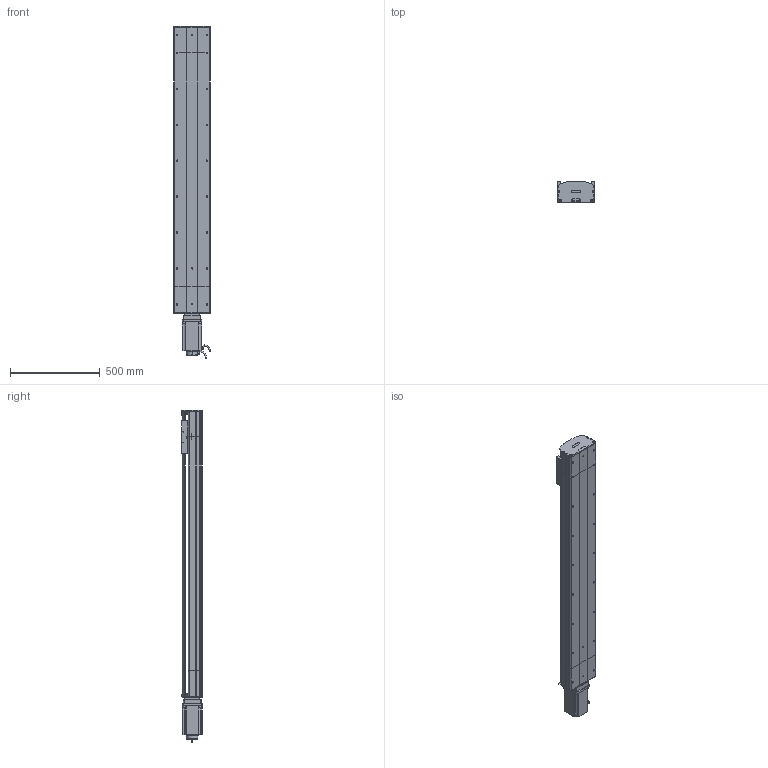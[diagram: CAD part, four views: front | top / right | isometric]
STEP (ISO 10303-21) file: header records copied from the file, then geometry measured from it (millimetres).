
FILE_DESCRIPTION (( 'STEP AP214' ), '1' );
FILE_NAME ('D20 TSH MD S1300.STEP', '2010-06-30T08:43:17', ( 'Conseil Régional Haute-Normandie' ), ( 'Conseil Régional Haute-Normandie' ), 'SwSTEP 2.0', 'SolidWorks 2010', '' );
FILE_SCHEMA (( 'AUTOMOTIVE_DESIGN' ));
Length unit declared in the file: millimetre
Products named in the file (33): corpl tail D20 +100_Default; chariot D20S_Default; tete d''axe bas D20; tail D20 +100_Default; vis M5 L12_Default; tete d''axe haut D20; couvercle tail D20_Default; Arbre+rail tail D20; 2 vis M5 L12_Default; plaque de  bout tail D20_Default; vis M5 L25_Default; Chariot D20; vis M5 L8 90°_Default; guide D20; avant 110BLDC170A-630x; plaque de  bout head MD D20_Default; corpl head MD D20_Default; head MD D20_Default; Conecteur2_Default; course D20 L1300_Default; vis M8 L12_Default; clavette; Plaque racord D20_Default; couvercle head l D20_Default; Arbre+rail head D20; couvercle D20 S1300_Default; rail + arbre  D20 S1300; corp D20 S1300_Default; D20 TSH MD S1300; Moteur motionking 110BLDC170A-640x; codeur 110BLDC170A-630x; corps 110BLDC170A-630x; Conecteur_Default
Assembly tree (56 placements, depth 4):
  D20 TSH MD S1300
    chariot D20S_Default
      vis M5 L12_Default  x4
      guide D20  x2
      Chariot D20
    head MD D20_Default
      vis M8 L12_Default  x4
      couvercle head l D20_Default
      vis M5 L12_Default  x4
      vis M5 L25_Default  x2
      2 vis M5 L12_Default  x6
      Plaque racord D20_Default
      plaque de  bout head MD D20_Default
      corpl head MD D20_Default
      Arbre+rail head D20
      Moteur motionking 110BLDC170A-640x
        clavette
        codeur 110BLDC170A-630x
        Conecteur_Default
        avant 110BLDC170A-630x
        Conecteur2_Default
        corps 110BLDC170A-630x
    tail D20 +100_Default
      couvercle tail D20_Default
      plaque de  bout tail D20_Default
      vis M5 L25_Default  x2
      2 vis M5 L12_Default  x4
      Arbre+rail tail D20
      tete d''axe haut D20
      corpl tail D20 +100_Default
      vis M5 L8 90°_Default  x2
      tete d''axe bas D20
    course D20 L1300_Default
      couvercle D20 S1300_Default
      corp D20 S1300_Default
      rail + arbre  D20 S1300
Bounding box: 206 x 115.7 x 1848.5 mm (x, y, z)
Volume: 14666229.4 mm3; surface area: 3117604.9 mm2
Topology: 81 solids, 81 shells, 2266 faces, 5754 edges, 3727 vertices
Faces by surface type: plane 1350, cylinder 640, bspline 136, torus 73, cone 67
Entity records: 75519 total; most frequent: CARTESIAN_POINT 25318, ORIENTED_EDGE 8912, DIRECTION 8273, EDGE_CURVE 4456, VERTEX_POINT 2939, LINE 2933, VECTOR 2933, AXIS2_PLACEMENT_3D 2670
